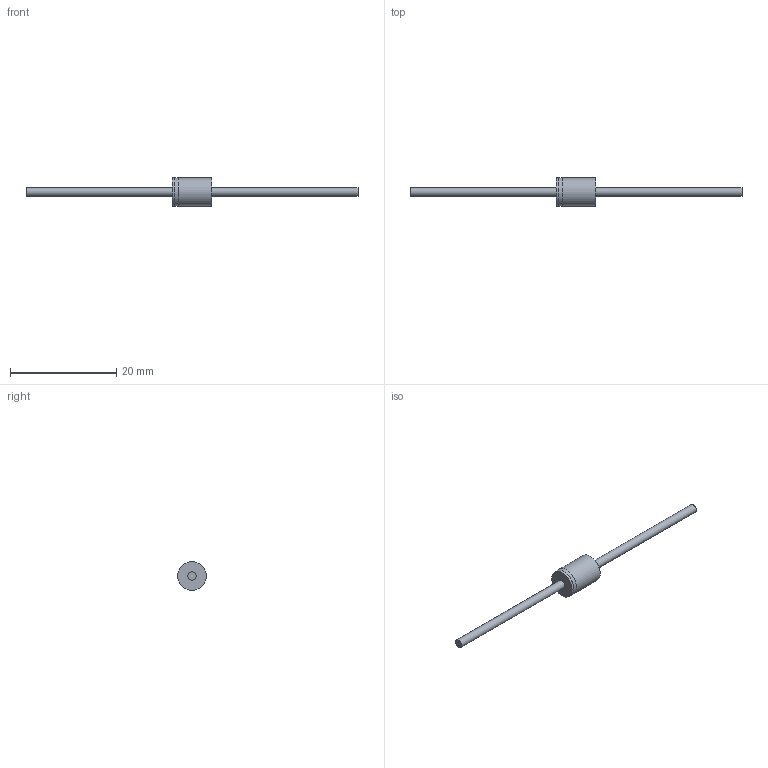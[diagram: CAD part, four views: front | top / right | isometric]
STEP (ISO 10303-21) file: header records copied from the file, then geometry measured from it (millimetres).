
FILE_DESCRIPTION(/* description */ (''),/* implementation_level */ '2;1');
FILE_NAME(/* name */ 'P33_D5,4x7,5x1,6.stp',/* time_stamp */ '2020-07-08T10:34:02+02:00',/* author */ (''),/* organization */ (''),/* preprocessor_version */ 'ST-DEVELOPER v14',/* originating_system */ 'SIEMENS PLM Software NX 8.0',/* authorisation */ '');
FILE_SCHEMA (('AUTOMOTIVE_DESIGN { 1 0 10303 214 3 1 1 1 }'));
Length unit declared in the file: millimetre
Products named in the file (1): P33_D5,4x7,5x1,6-body
Bounding box: 62.5 x 5.4 x 5.4 mm (x, y, z)
Volume: 282.4 mm3; surface area: 483.1 mm2
Topology: 4 solids, 4 shells, 17 faces, 22 edges, 15 vertices
Faces by surface type: plane 10, cylinder 7
Full cylindrical faces by diameter (mm): 1.6 x2, 5.34 x2, 5.4 x3
Entity records: 449 total; most frequent: DIRECTION 64, CARTESIAN_POINT 51, AXIS2_PLACEMENT_3D 32, EDGE_LOOP 28, ORIENTED_EDGE 28, FACE_BOUND 22, PROPERTY_DEFINITION 21, PROPERTY_DEFINITION_REPRESENTATION 17
